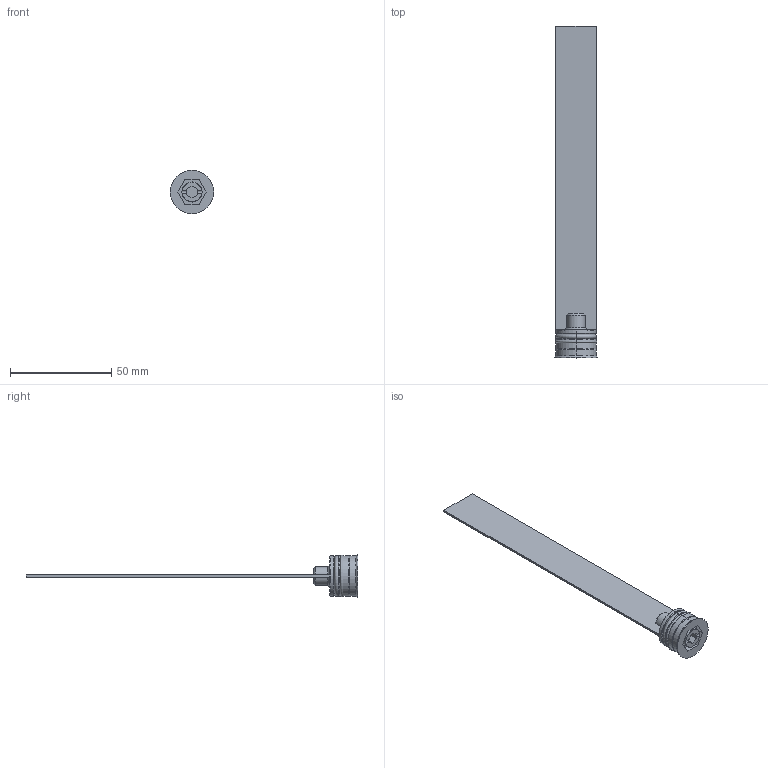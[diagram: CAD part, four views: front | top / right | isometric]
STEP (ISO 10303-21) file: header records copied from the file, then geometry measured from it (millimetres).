
FILE_DESCRIPTION (( 'STEP AP203' ), '1' );
FILE_NAME ('RL-20Fx150.STEP', '2015-12-02T15:12:02', ( 'Balzi' ), ( '' ), 'SwSTEP 2.0', 'SolidWorks 2015', '' );
FILE_SCHEMA (( 'CONFIG_CONTROL_DESIGN' ));
Length unit declared in the file: millimetre
Products named in the file (1): RL-20Fx150
Bounding box: 21.5 x 164 x 21.5 mm (x, y, z)
Volume: 7471.7 mm3; surface area: 8525.8 mm2
Topology: 1 solids, 1 shells, 75 faces, 177 edges, 109 vertices
Faces by surface type: plane 31, cone 19, cylinder 17, torus 8
Entity records: 2245 total; most frequent: CARTESIAN_POINT 412, DIRECTION 386, ORIENTED_EDGE 354, EDGE_CURVE 177, AXIS2_PLACEMENT_3D 147, VERTEX_POINT 109, LINE 92, VECTOR 92
